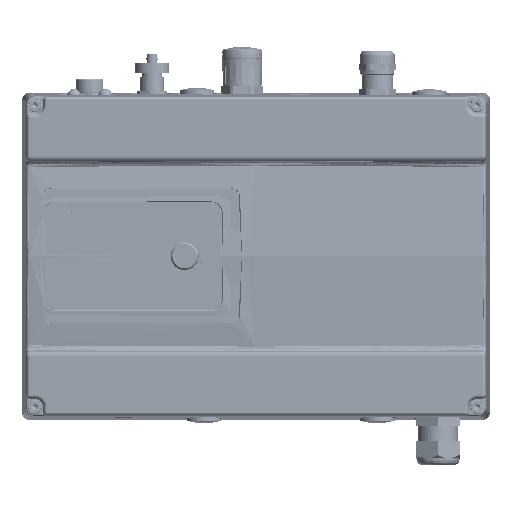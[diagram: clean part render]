
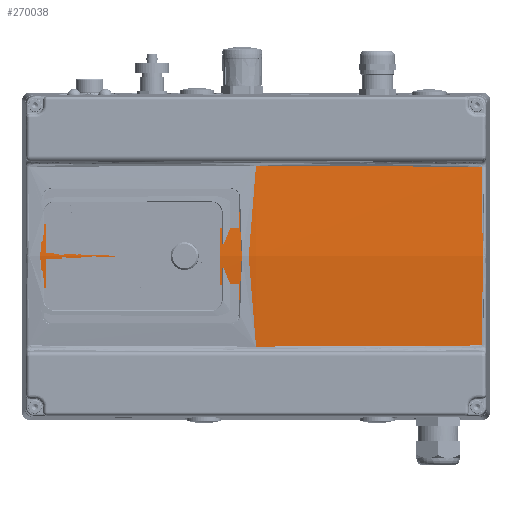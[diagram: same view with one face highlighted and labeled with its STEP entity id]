
A CAD part, top view. The second image highlights one B-rep face of the part: STEP entity #270038.
In plain terms, the highlighted toroidal (fillet/blend) face has major radius 2503.01 mm and minor radius 500 mm.
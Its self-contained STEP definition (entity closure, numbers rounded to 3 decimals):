
#269908=AXIS2_PLACEMENT_3D('Circle Axis2P3D',#269906,#269907,$) ;
#269953=AXIS2_PLACEMENT_3D('Circle Axis2P3D',#269951,#269952,$) ;
#269966=AXIS2_PLACEMENT_3D('Torus Axis2P3D',#269963,#269964,#269965) ;
#269993=AXIS2_PLACEMENT_3D('Circle Axis2P3D',#269991,#269992,$) ;
#270025=AXIS2_PLACEMENT_3D('Circle Axis2P3D',#270023,#270024,$) ;
#268721=CARTESIAN_POINT('Vertex',(-4.185,-51.501,81.9)) ;
#269136=CARTESIAN_POINT('Vertex',(-265.815,-51.501,81.9)) ;
#269226=CARTESIAN_POINT('Vertex',(-265.815,51.501,81.9)) ;
#269243=CARTESIAN_POINT('Control Point',(-265.815,-51.501,81.9)) ;
#269244=CARTESIAN_POINT('Control Point',(-265.793,-45.349,82.538)) ;
#269245=CARTESIAN_POINT('Control Point',(-265.774,-39.187,83.081)) ;
#269246=CARTESIAN_POINT('Control Point',(-265.759,-33.017,83.529)) ;
#269247=CARTESIAN_POINT('Control Point',(-265.718,-12.411,84.704)) ;
#269248=CARTESIAN_POINT('Control Point',(-265.714,8.24,84.812)) ;
#269249=CARTESIAN_POINT('Control Point',(-265.73,22.697,84.363)) ;
#269250=CARTESIAN_POINT('Control Point',(-265.763,37.126,83.392)) ;
#269251=CARTESIAN_POINT('Control Point',(-265.815,51.501,81.9)) ;
#269783=CARTESIAN_POINT('Vertex',(-4.185,51.501,81.9)) ;
#269884=CARTESIAN_POINT('Control Point',(-4.185,-51.501,81.9)) ;
#269885=CARTESIAN_POINT('Control Point',(-4.207,-45.345,82.539)) ;
#269886=CARTESIAN_POINT('Control Point',(-4.226,-39.178,83.082)) ;
#269887=CARTESIAN_POINT('Control Point',(-4.241,-33.004,83.53)) ;
#269888=CARTESIAN_POINT('Control Point',(-4.282,-12.398,84.704)) ;
#269889=CARTESIAN_POINT('Control Point',(-4.286,8.253,84.811)) ;
#269890=CARTESIAN_POINT('Control Point',(-4.27,22.706,84.363)) ;
#269891=CARTESIAN_POINT('Control Point',(-4.236,37.131,83.391)) ;
#269892=CARTESIAN_POINT('Control Point',(-4.185,51.501,81.9)) ;
#269906=CARTESIAN_POINT('Axis2P3D Location',(-135.,-51.501,-2915.601)) ;
#269910=CARTESIAN_POINT('Vertex',(-4.6,-51.501,81.918)) ;
#269948=CARTESIAN_POINT('Vertex',(-265.4,-51.501,81.918)) ;
#269951=CARTESIAN_POINT('Axis2P3D Location',(-135.,-51.501,-2915.601)) ;
#269963=CARTESIAN_POINT('Axis2P3D Location',(-135.,0.,-2915.601)) ;
#269969=CARTESIAN_POINT('Control Point',(-265.4,-51.501,81.918)) ;
#269970=CARTESIAN_POINT('Control Point',(-261.525,-51.501,82.086)) ;
#269971=CARTESIAN_POINT('Control Point',(-257.65,-51.507,82.248)) ;
#269972=CARTESIAN_POINT('Control Point',(-253.776,-51.518,82.403)) ;
#269973=CARTESIAN_POINT('Control Point',(-246.026,-51.548,82.699)) ;
#269974=CARTESIAN_POINT('Control Point',(-238.276,-51.591,82.969)) ;
#269975=CARTESIAN_POINT('Control Point',(-234.401,-51.616,83.097)) ;
#269976=CARTESIAN_POINT('Control Point',(-215.662,-51.744,83.687)) ;
#269977=CARTESIAN_POINT('Control Point',(-196.922,-51.906,84.127)) ;
#269978=CARTESIAN_POINT('Control Point',(-182.062,-52.024,84.384)) ;
#269979=CARTESIAN_POINT('Control Point',(-159.763,-52.15,84.638)) ;
#269980=CARTESIAN_POINT('Control Point',(-137.462,-52.18,84.695)) ;
#269981=CARTESIAN_POINT('Control Point',(-130.029,-52.178,84.692)) ;
#269982=CARTESIAN_POINT('Control Point',(-107.73,-52.139,84.617)) ;
#269983=CARTESIAN_POINT('Control Point',(-85.432,-52.006,84.346)) ;
#269984=CARTESIAN_POINT('Control Point',(-70.575,-51.885,84.076)) ;
#269985=CARTESIAN_POINT('Control Point',(-48.46,-51.694,83.539)) ;
#269986=CARTESIAN_POINT('Control Point',(-26.348,-51.557,82.792)) ;
#269987=CARTESIAN_POINT('Control Point',(-19.099,-51.522,82.524)) ;
#269988=CARTESIAN_POINT('Control Point',(-11.849,-51.501,82.233)) ;
#269989=CARTESIAN_POINT('Control Point',(-4.6,-51.501,81.918)) ;
#269991=CARTESIAN_POINT('Axis2P3D Location',(-135.,51.501,-2915.601)) ;
#269995=CARTESIAN_POINT('Vertex',(-4.6,51.501,81.918)) ;
#269999=CARTESIAN_POINT('Control Point',(-265.4,51.501,81.918)) ;
#270000=CARTESIAN_POINT('Control Point',(-261.525,51.501,82.086)) ;
#270001=CARTESIAN_POINT('Control Point',(-257.65,51.507,82.248)) ;
#270002=CARTESIAN_POINT('Control Point',(-253.776,51.518,82.403)) ;
#270003=CARTESIAN_POINT('Control Point',(-246.026,51.548,82.699)) ;
#270004=CARTESIAN_POINT('Control Point',(-238.276,51.591,82.969)) ;
#270005=CARTESIAN_POINT('Control Point',(-234.401,51.616,83.097)) ;
#270006=CARTESIAN_POINT('Control Point',(-215.662,51.744,83.687)) ;
#270007=CARTESIAN_POINT('Control Point',(-196.922,51.906,84.127)) ;
#270008=CARTESIAN_POINT('Control Point',(-182.062,52.024,84.384)) ;
#270009=CARTESIAN_POINT('Control Point',(-159.763,52.15,84.638)) ;
#270010=CARTESIAN_POINT('Control Point',(-137.462,52.18,84.695)) ;
#270011=CARTESIAN_POINT('Control Point',(-130.029,52.178,84.692)) ;
#270012=CARTESIAN_POINT('Control Point',(-107.73,52.139,84.617)) ;
#270013=CARTESIAN_POINT('Control Point',(-85.432,52.006,84.346)) ;
#270014=CARTESIAN_POINT('Control Point',(-70.575,51.885,84.076)) ;
#270015=CARTESIAN_POINT('Control Point',(-48.46,51.694,83.539)) ;
#270016=CARTESIAN_POINT('Control Point',(-26.348,51.557,82.792)) ;
#270017=CARTESIAN_POINT('Control Point',(-19.099,51.522,82.524)) ;
#270018=CARTESIAN_POINT('Control Point',(-11.849,51.501,82.233)) ;
#270019=CARTESIAN_POINT('Control Point',(-4.6,51.501,81.918)) ;
#270020=CARTESIAN_POINT('Vertex',(-265.4,51.501,81.918)) ;
#270023=CARTESIAN_POINT('Axis2P3D Location',(-135.,51.501,-2915.601)) ;
#269907=DIRECTION('Axis2P3D Direction',(0.,-1.,0.)) ;
#269952=DIRECTION('Axis2P3D Direction',(0.,-1.,0.)) ;
#269964=DIRECTION('Axis2P3D Direction',(0.,1.,0.)) ;
#269965=DIRECTION('Axis2P3D XDirection',(-0.045,0.,0.999)) ;
#269992=DIRECTION('Axis2P3D Direction',(0.,1.,-0.)) ;
#270024=DIRECTION('Axis2P3D Direction',(0.,1.,-0.)) ;
#270029=ORIENTED_EDGE('',*,*,#269252,.T.) ;
#270030=ORIENTED_EDGE('',*,*,#269955,.F.) ;
#270031=ORIENTED_EDGE('',*,*,#269990,.F.) ;
#270032=ORIENTED_EDGE('',*,*,#269912,.F.) ;
#270033=ORIENTED_EDGE('',*,*,#269893,.T.) ;
#270034=ORIENTED_EDGE('',*,*,#269997,.T.) ;
#270035=ORIENTED_EDGE('',*,*,#270022,.T.) ;
#270036=ORIENTED_EDGE('',*,*,#270027,.T.) ;
#270038=ADVANCED_FACE('COVER_STANDARD_(DK01)',(#270037),#269967,.T.) ;
#269242=B_SPLINE_CURVE_WITH_KNOTS('',5,(#269243,#269244,#269245,#269246,#269247,#269248,#269249,#269250,#269251),.UNSPECIFIED.,.F.,.U.,(6,3,6),(107.043,150.691,252.678),.UNSPECIFIED.) ;
#269883=B_SPLINE_CURVE_WITH_KNOTS('',5,(#269884,#269885,#269886,#269887,#269888,#269889,#269890,#269891,#269892),.UNSPECIFIED.,.F.,.U.,(6,3,6),(107.043,150.722,252.678),.UNSPECIFIED.) ;
#269968=B_SPLINE_CURVE_WITH_KNOTS('',5,(#269969,#269970,#269971,#269972,#269973,#269974,#269975,#269976,#269977,#269978,#269979,#269980,#269981,#269982,#269983,#269984,#269985,#269986,#269987,#269988,#269989),.UNSPECIFIED.,.F.,.U.,(6,3,3,3,3,3,6),(72.177,97.433,122.69,219.554,267.983,364.84,412.092),.UNSPECIFIED.) ;
#269998=B_SPLINE_CURVE_WITH_KNOTS('',5,(#269999,#270000,#270001,#270002,#270003,#270004,#270005,#270006,#270007,#270008,#270009,#270010,#270011,#270012,#270013,#270014,#270015,#270016,#270017,#270018,#270019),.UNSPECIFIED.,.F.,.U.,(6,3,3,3,3,3,6),(72.177,97.433,122.69,219.554,267.983,364.84,412.092),.UNSPECIFIED.) ;
#269909=CIRCLE('generated circle',#269908,3000.354) ;
#269954=CIRCLE('generated circle',#269953,3000.354) ;
#269994=CIRCLE('generated circle',#269993,3000.354) ;
#270026=CIRCLE('generated circle',#270025,3000.354) ;
#269967=TOROIDAL_SURFACE('homeo Torus',#269966,2503.013,500.) ;
#269252=EDGE_CURVE('',#269227,#269137,#269242,.F.) ;
#269893=EDGE_CURVE('',#268722,#269784,#269883,.T.) ;
#269912=EDGE_CURVE('',#268722,#269911,#269909,.T.) ;
#269955=EDGE_CURVE('',#269949,#269137,#269954,.T.) ;
#269990=EDGE_CURVE('',#269911,#269949,#269968,.F.) ;
#269997=EDGE_CURVE('',#269784,#269996,#269994,.F.) ;
#270022=EDGE_CURVE('',#269996,#270021,#269998,.F.) ;
#270027=EDGE_CURVE('',#270021,#269227,#270026,.F.) ;
#270028=EDGE_LOOP('',(#270029,#270030,#270031,#270032,#270033,#270034,#270035,#270036)) ;
#270037=FACE_OUTER_BOUND('',#270028,.T.) ;
#268722=VERTEX_POINT('',#268721) ;
#269137=VERTEX_POINT('',#269136) ;
#269227=VERTEX_POINT('',#269226) ;
#269784=VERTEX_POINT('',#269783) ;
#269911=VERTEX_POINT('',#269910) ;
#269949=VERTEX_POINT('',#269948) ;
#269996=VERTEX_POINT('',#269995) ;
#270021=VERTEX_POINT('',#270020) ;
